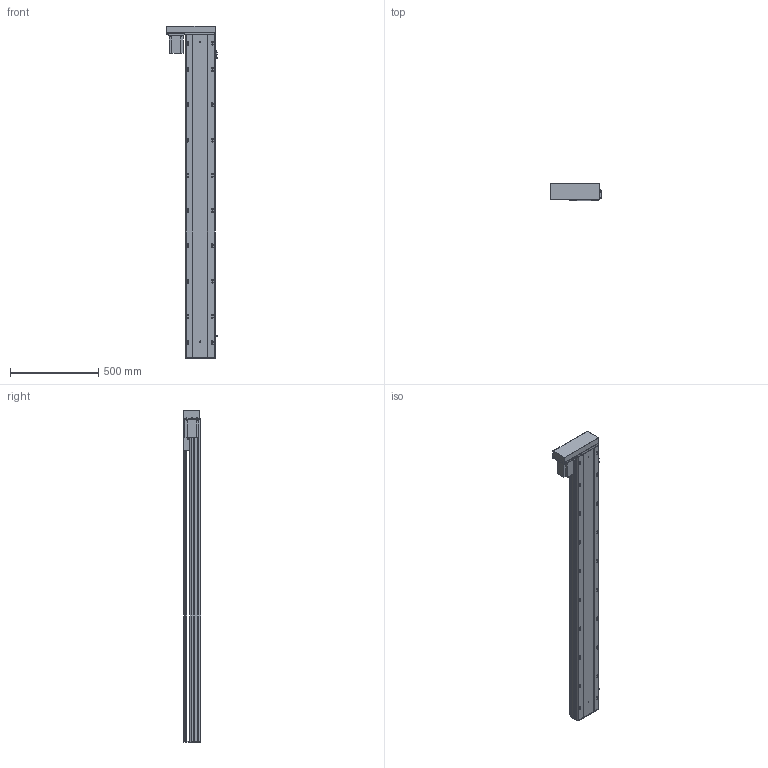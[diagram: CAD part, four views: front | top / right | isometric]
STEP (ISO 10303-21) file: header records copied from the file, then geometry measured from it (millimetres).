
FILE_DESCRIPTION (( 'STEP AP203' ), '1' );
FILE_NAME ('Y170-D10-S1600-BL-P750W.STEP', '2020-01-19T23:21:18', ( '微软用户' ), ( '微软中国' ), 'SwSTEP 2.0', 'SolidWorks 2017', '' );
FILE_SCHEMA (( 'CONFIG_CONTROL_DESIGN' ));
Length unit declared in the file: millimetre
Products named in the file (12): EGH20賑輸_蕼偞; Y雄赽釱-耜蚾; Y-BL.BR-俋欶; Y170耜裔--準---; Y170-陔遴奻裔-BR; YD-Y100-135-新外置传感挡片(通用）; Y--BL蟀諉啣-陔遴-; Y100-135俋离換覜ん; Y170-D10-S1600-BL-P750W; 170--掛极-BR; Y170-BL-P750W楊擘啣; 侂狟750W
Assembly tree (14 placements, depth 2):
  Y170-D10-S1600-BL-P750W
    Y170耜裔--準---
    YD-Y100-135-新外置传感挡片(通用）
    Y100-135俋离換覜ん  x3
    170--掛极-BR
    Y170-BL-P750W楊擘啣
    侂狟750W
    EGH20賑輸_蕼偞  x2
    Y雄赽釱-耜蚾
    Y-BL.BR-俋欶
    Y170-陔遴奻裔-BR
    Y--BL蟀諉啣-陔遴-
Bounding box: 289 x 97 x 1883.5 mm (x, y, z)
Volume: 8315273.8 mm3; surface area: 2945702.8 mm2
Topology: 14 solids, 14 shells, 971 faces, 2782 edges, 1836 vertices
Faces by surface type: cylinder 510, plane 445, cone 16
Entity records: 31330 total; most frequent: CARTESIAN_POINT 5704, DIRECTION 5160, ORIENTED_EDGE 5060, EDGE_CURVE 2530, AXIS2_PLACEMENT_3D 1848, VERTEX_POINT 1680, LINE 1464, VECTOR 1464
